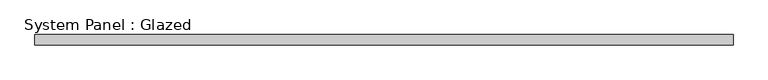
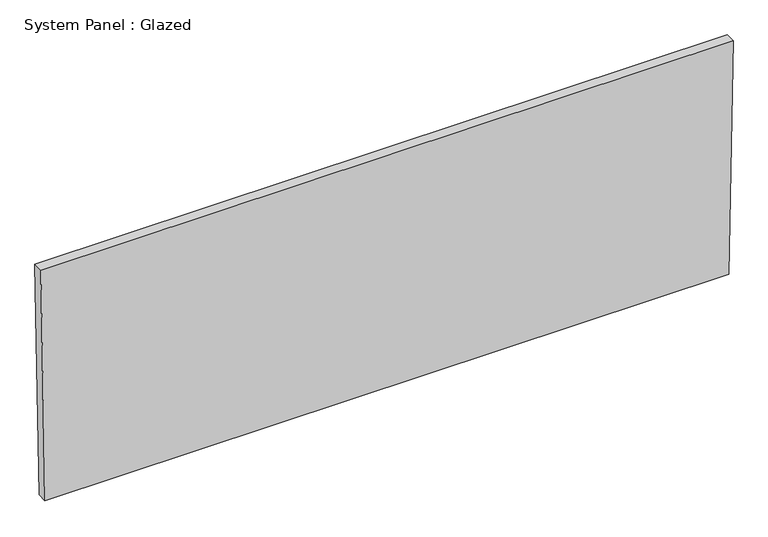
"""IFC4 building model written with IfcOpenShell, lengths in millimetres: plate geometry, System Panel : Glazed."""

from ifc_helpers import new_model, si_unit, frame, origin, place, context, project, spatial, polyline, outline, extrude, source, transform, mapped, element, save


def system_panel_glazed_ff2c9b8f(model_context):
    return source(origin(), model_context, "Body", "SweptSolid", [
        extrude(outline(polyline([(0.0, -849.64616), (0.0, 849.64616), (609.5123542, 859.982993), (609.5123542, -859.982993), (0.0, -849.64616)])), frame((0.0, -44.45, 0.0), z_axis=(0.0, 1.0, 0.0), x_axis=(0.0, 0.0, 1.0)), (0.0, 0.0, 1.0), 25.4),
    ])


if __name__ == "__main__":
    model = new_model("IFC4")
    model_context = context("Model", 3, world=origin())
    ifc_project = project(units=[si_unit("LENGTHUNIT", "METRE", prefix="MILLI")], contexts=[model_context])
    site = spatial("IfcSite", under=ifc_project)
    building = spatial("IfcBuilding", under=site)
    placement = place(None, origin())
    system_panel_glazed_shape = system_panel_glazed_ff2c9b8f(model_context)
    element("IfcPlate", 1, ObjectType="System Panel : Glazed", at=placement, inside=building, context=model_context, shape_type="MappedRepresentation", body=[
        mapped(system_panel_glazed_shape, transform((0.0, 0.0, 0.0), x_axis=(1.0, 0.0, 0.0), y_axis=(0.0, 1.0, 0.0), z_axis=(0.0, 0.0, 1.0))),
    ])
    save(model, "model.ifc")
